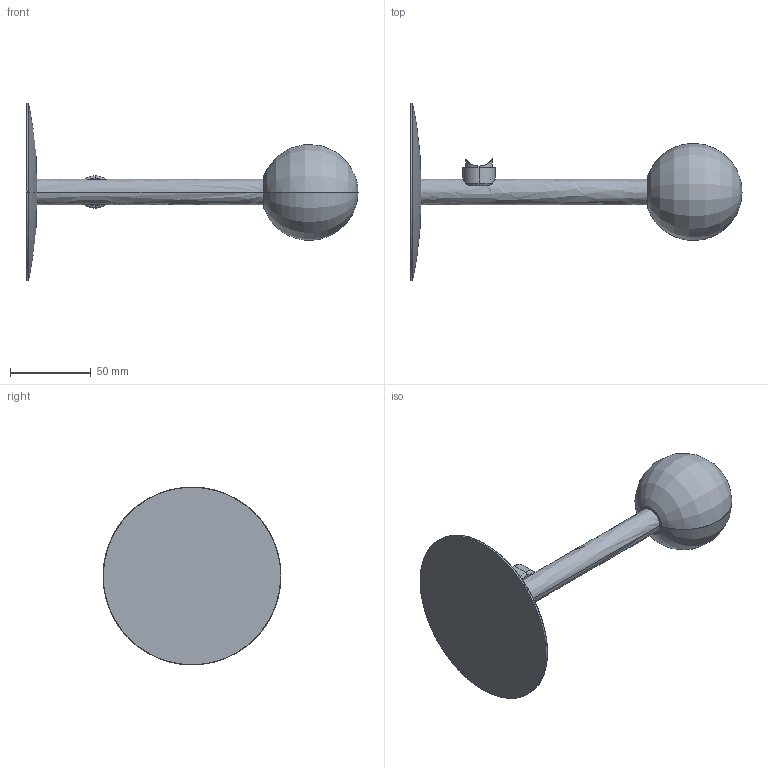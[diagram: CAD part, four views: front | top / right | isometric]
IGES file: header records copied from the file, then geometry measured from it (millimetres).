
Start section: SolidWorks IGES file using analytic representation for surfaces
Global section: file name: C:\Users\Joandita\Dropbox\Rakumba Marketing - Design\PRODUCT\TYPOGRAPHY\VELA\PRODUCT PHOTOGRAPHY\WORKING FILES\RENDERS\CAD\Lightweight\Lights\Eclipse 110.IGS; native system: SolidWorks 2017; preprocessor: SolidWorks 2017; author: Joandita; date: 210916.114756; units: millimetre
Bounding box: 205.33 x 110 x 110 mm (x, y, z)
Surface area: 56025.7 mm2 (no closed solid volume)
Topology: 0 solids, 0 shells, 75 faces, 1458 edges, 1453 vertices
Faces by surface type: revolution 43, bspline 32
